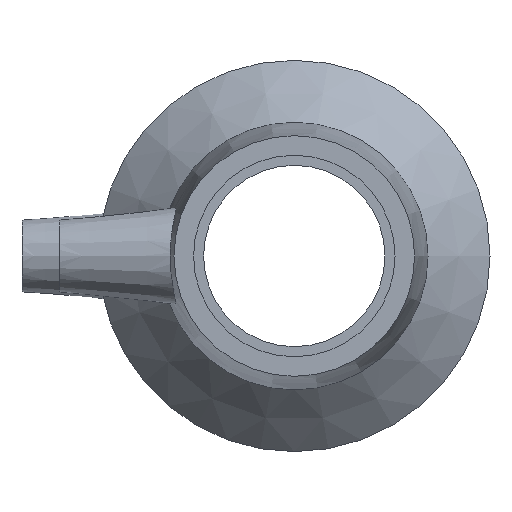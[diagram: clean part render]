
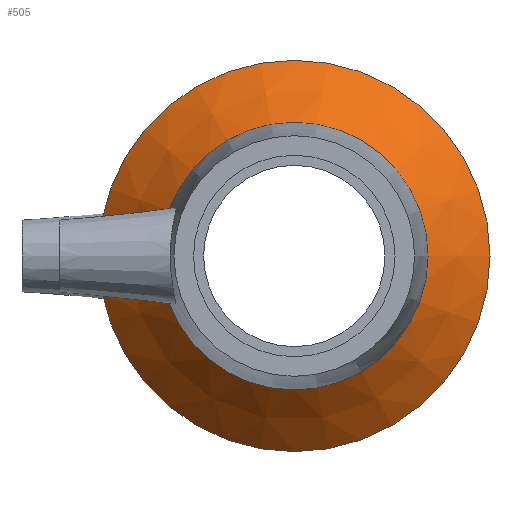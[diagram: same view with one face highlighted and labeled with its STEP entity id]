
A CAD part, left-side view. The second image highlights one B-rep face of the part: STEP entity #505.
In plain terms, the highlighted conical face has half-angle 45 degrees and reference radius 34.417 mm.
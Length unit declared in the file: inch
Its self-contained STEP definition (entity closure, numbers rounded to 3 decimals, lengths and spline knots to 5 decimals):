
#21=CONICAL_SURFACE('',#571,1.355,0.785);
#46=LINE('',#936,#65);
#65=VECTOR('',#694,1.355);
#101=FACE_OUTER_BOUND('',#136,.T.);
#136=EDGE_LOOP('',(#380,#381,#382,#383,#384,#385));
#173=CIRCLE('',#567,1.1);
#174=CIRCLE('',#568,1.1);
#177=CIRCLE('',#572,1.61);
#178=CIRCLE('',#573,1.61);
#226=VERTEX_POINT('',#922);
#227=VERTEX_POINT('',#923);
#230=VERTEX_POINT('',#932);
#231=VERTEX_POINT('',#933);
#285=EDGE_CURVE('',#226,#227,#173,.T.);
#286=EDGE_CURVE('',#227,#226,#174,.T.);
#290=EDGE_CURVE('',#230,#231,#177,.T.);
#291=EDGE_CURVE('',#231,#230,#178,.T.);
#292=EDGE_CURVE('',#231,#227,#46,.T.);
#380=ORIENTED_EDGE('',*,*,#290,.F.);
#381=ORIENTED_EDGE('',*,*,#291,.F.);
#382=ORIENTED_EDGE('',*,*,#292,.T.);
#383=ORIENTED_EDGE('',*,*,#286,.T.);
#384=ORIENTED_EDGE('',*,*,#285,.T.);
#385=ORIENTED_EDGE('',*,*,#292,.F.);
#505=ADVANCED_FACE('',(#101),#21,.T.);
#567=AXIS2_PLACEMENT_3D('',#924,#679,#680);
#568=AXIS2_PLACEMENT_3D('',#925,#681,#682);
#571=AXIS2_PLACEMENT_3D('',#931,#688,#689);
#572=AXIS2_PLACEMENT_3D('',#934,#690,#691);
#573=AXIS2_PLACEMENT_3D('',#935,#692,#693);
#679=DIRECTION('center_axis',(1.,0.,0.));
#680=DIRECTION('ref_axis',(0.,0.,-1.));
#681=DIRECTION('center_axis',(1.,0.,0.));
#682=DIRECTION('ref_axis',(0.,0.,-1.));
#688=DIRECTION('center_axis',(1.,0.,0.));
#689=DIRECTION('ref_axis',(0.,1.,0.));
#690=DIRECTION('center_axis',(1.,0.,0.));
#691=DIRECTION('ref_axis',(0.,0.,-1.));
#692=DIRECTION('center_axis',(1.,0.,0.));
#693=DIRECTION('ref_axis',(0.,0.,-1.));
#694=DIRECTION('',(-0.707,0.707,0.));
#922=CARTESIAN_POINT('',(-0.67875,1.1,0.));
#923=CARTESIAN_POINT('',(-0.67875,-1.1,0.));
#924=CARTESIAN_POINT('Origin',(-0.67875,0.,
0.));
#925=CARTESIAN_POINT('Origin',(-0.67875,0.,
0.));
#931=CARTESIAN_POINT('Origin',(-0.42375,0.,
0.));
#932=CARTESIAN_POINT('',(-0.16875,1.61,0.));
#933=CARTESIAN_POINT('',(-0.16875,-1.61,0.));
#934=CARTESIAN_POINT('Origin',(-0.16875,0.,
0.));
#935=CARTESIAN_POINT('Origin',(-0.16875,0.,
0.));
#936=CARTESIAN_POINT('',(-0.42375,-1.355,0.));
